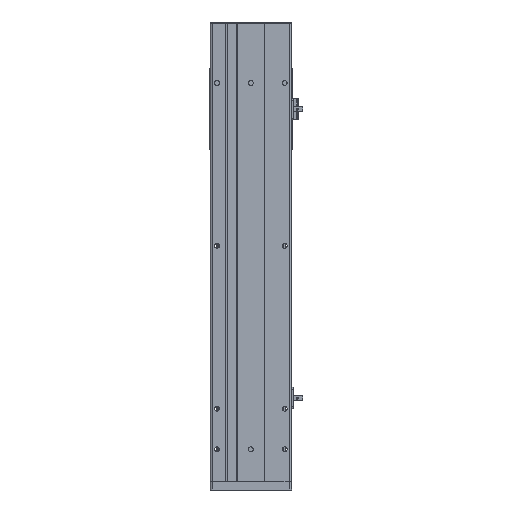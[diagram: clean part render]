
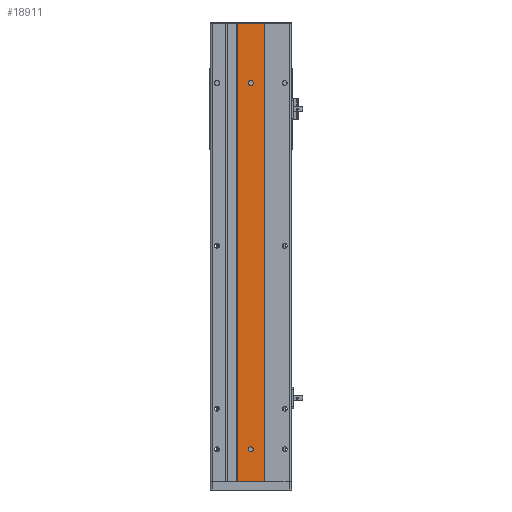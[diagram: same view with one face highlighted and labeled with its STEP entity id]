
A CAD part, front view. The second image highlights one B-rep face of the part: STEP entity #18911.
In plain terms, the highlighted planar face has unit normal (0, -1, 0).
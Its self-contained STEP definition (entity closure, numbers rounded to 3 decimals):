
#50 = EDGE_CURVE ( 'NONE', #8322, #29312, #600, .T. ) ;
#600 = LINE ( 'NONE', #8705, #12470 ) ;
#2284 = VERTEX_POINT ( 'NONE', #23117 ) ;
#2830 = FACE_OUTER_BOUND ( 'NONE', #14405, .T. ) ;
#3893 = ORIENTED_EDGE ( 'NONE', *, *, #4097, .F. ) ;
#4097 = EDGE_CURVE ( 'NONE', #25006, #2284, #31876, .T. ) ;
#6378 = CARTESIAN_POINT ( 'NONE',  ( 0., 0., -238.5 ) ) ;
#6810 = AXIS2_PLACEMENT_3D ( 'NONE', #17940, #17933, #17896 ) ;
#7041 = EDGE_LOOP ( 'NONE', ( #12765, #19302 ) ) ;
#8322 = VERTEX_POINT ( 'NONE', #20418 ) ;
#8705 = CARTESIAN_POINT ( 'NONE',  ( -16.5, 0., 281.5 ) ) ;
#9390 = EDGE_CURVE ( 'NONE', #8322, #18185, #15033, .T. ) ;
#9762 = DIRECTION ( 'NONE',  ( 0., 1., 0. ) ) ;
#9826 = EDGE_CURVE ( 'NONE', #18185, #21109, #22320, .T. ) ;
#10389 = ORIENTED_EDGE ( 'NONE', *, *, #9826, .F. ) ;
#10553 = ORIENTED_EDGE ( 'NONE', *, *, #13759, .F. ) ;
#10554 = DIRECTION ( 'NONE',  ( 0., 0., -1. ) ) ;
#10581 = DIRECTION ( 'NONE',  ( 0., -1., 0. ) ) ;
#10596 = CARTESIAN_POINT ( 'NONE',  ( 0., 0., 208.5 ) ) ;
#11283 = DIRECTION ( 'NONE',  ( 1., 0., 0. ) ) ;
#11375 = CARTESIAN_POINT ( 'NONE',  ( -16.5, 0., -281.5 ) ) ;
#12150 = CARTESIAN_POINT ( 'NONE',  ( 16.5, 0., 281.5 ) ) ;
#12157 = DIRECTION ( 'NONE',  ( 0., 0., -1. ) ) ;
#12470 = VECTOR ( 'NONE', #23151, 1000. ) ;
#12646 = ORIENTED_EDGE ( 'NONE', *, *, #21421, .T. ) ;
#12683 = CARTESIAN_POINT ( 'NONE',  ( 0., 0., -244.5 ) ) ;
#12765 = ORIENTED_EDGE ( 'NONE', *, *, #14240, .F. ) ;
#13759 = EDGE_CURVE ( 'NONE', #2284, #25006, #30961, .T. ) ;
#14240 = EDGE_CURVE ( 'NONE', #29433, #21617, #19582, .T. ) ;
#14321 = LINE ( 'NONE', #11375, #20855 ) ;
#14405 = EDGE_LOOP ( 'NONE', ( #12646, #10389, #28864, #16420 ) ) ;
#15033 = LINE ( 'NONE', #18365, #20836 ) ;
#15290 = DIRECTION ( 'NONE',  ( 0., 0., -1. ) ) ;
#15452 = DIRECTION ( 'NONE',  ( 0., -1., 0. ) ) ;
#15489 = CARTESIAN_POINT ( 'NONE',  ( 0., 0., -241.5 ) ) ;
#15778 = CARTESIAN_POINT ( 'NONE',  ( 0., 0., 205.5 ) ) ;
#16420 = ORIENTED_EDGE ( 'NONE', *, *, #50, .T. ) ;
#16748 = CARTESIAN_POINT ( 'NONE',  ( 16.5, 0., -281.5 ) ) ;
#17896 = DIRECTION ( 'NONE',  ( 0., 0., -1. ) ) ;
#17933 = DIRECTION ( 'NONE',  ( 0., -1., 0. ) ) ;
#17940 = CARTESIAN_POINT ( 'NONE',  ( 0., 0., -241.5 ) ) ;
#18006 = AXIS2_PLACEMENT_3D ( 'NONE', #19587, #9762, #26941 ) ;
#18185 = VERTEX_POINT ( 'NONE', #28093 ) ;
#18365 = CARTESIAN_POINT ( 'NONE',  ( -16.5, 0., 281.5 ) ) ;
#18474 = EDGE_LOOP ( 'NONE', ( #3893, #10553 ) ) ;
#18524 = DIRECTION ( 'NONE',  ( 1., 0., 0. ) ) ;
#18911 = ADVANCED_FACE ( 'NONE', ( #21928, #22690, #2830 ), #24493, .F. ) ;
#19302 = ORIENTED_EDGE ( 'NONE', *, *, #22745, .F. ) ;
#19582 = CIRCLE ( 'NONE', #6810, 3. ) ;
#19587 = CARTESIAN_POINT ( 'NONE',  ( -16.5, 0., 281.5 ) ) ;
#20418 = CARTESIAN_POINT ( 'NONE',  ( -16.5, 0., 281.5 ) ) ;
#20836 = VECTOR ( 'NONE', #18524, 1000. ) ;
#20855 = VECTOR ( 'NONE', #11283, 1000. ) ;
#21109 = VERTEX_POINT ( 'NONE', #16748 ) ;
#21421 = EDGE_CURVE ( 'NONE', #29312, #21109, #14321, .T. ) ;
#21566 = VECTOR ( 'NONE', #12157, 1000. ) ;
#21617 = VERTEX_POINT ( 'NONE', #6378 ) ;
#21928 = FACE_BOUND ( 'NONE', #7041, .T. ) ;
#22320 = LINE ( 'NONE', #12150, #21566 ) ;
#22690 = FACE_BOUND ( 'NONE', #18474, .T. ) ;
#22745 = EDGE_CURVE ( 'NONE', #21617, #29433, #23804, .T. ) ;
#23117 = CARTESIAN_POINT ( 'NONE',  ( 0., 0., 211.5 ) ) ;
#23151 = DIRECTION ( 'NONE',  ( 0., 0., -1. ) ) ;
#23804 = CIRCLE ( 'NONE', #28846, 3. ) ;
#24493 = PLANE ( 'NONE',  #18006 ) ;
#25006 = VERTEX_POINT ( 'NONE', #15778 ) ;
#26231 = AXIS2_PLACEMENT_3D ( 'NONE', #27185, #27147, #27143 ) ;
#26941 = DIRECTION ( 'NONE',  ( 0., 0., 1. ) ) ;
#27143 = DIRECTION ( 'NONE',  ( 0., 0., -1. ) ) ;
#27147 = DIRECTION ( 'NONE',  ( 0., -1., 0. ) ) ;
#27185 = CARTESIAN_POINT ( 'NONE',  ( 0., 0., 208.5 ) ) ;
#28093 = CARTESIAN_POINT ( 'NONE',  ( 16.5, 0., 281.5 ) ) ;
#28846 = AXIS2_PLACEMENT_3D ( 'NONE', #15489, #15452, #15290 ) ;
#28864 = ORIENTED_EDGE ( 'NONE', *, *, #9390, .F. ) ;
#29312 = VERTEX_POINT ( 'NONE', #30530 ) ;
#29433 = VERTEX_POINT ( 'NONE', #12683 ) ;
#30530 = CARTESIAN_POINT ( 'NONE',  ( -16.5, 0., -281.5 ) ) ;
#30823 = AXIS2_PLACEMENT_3D ( 'NONE', #10596, #10581, #10554 ) ;
#30961 = CIRCLE ( 'NONE', #26231, 3. ) ;
#31876 = CIRCLE ( 'NONE', #30823, 3. ) ;
